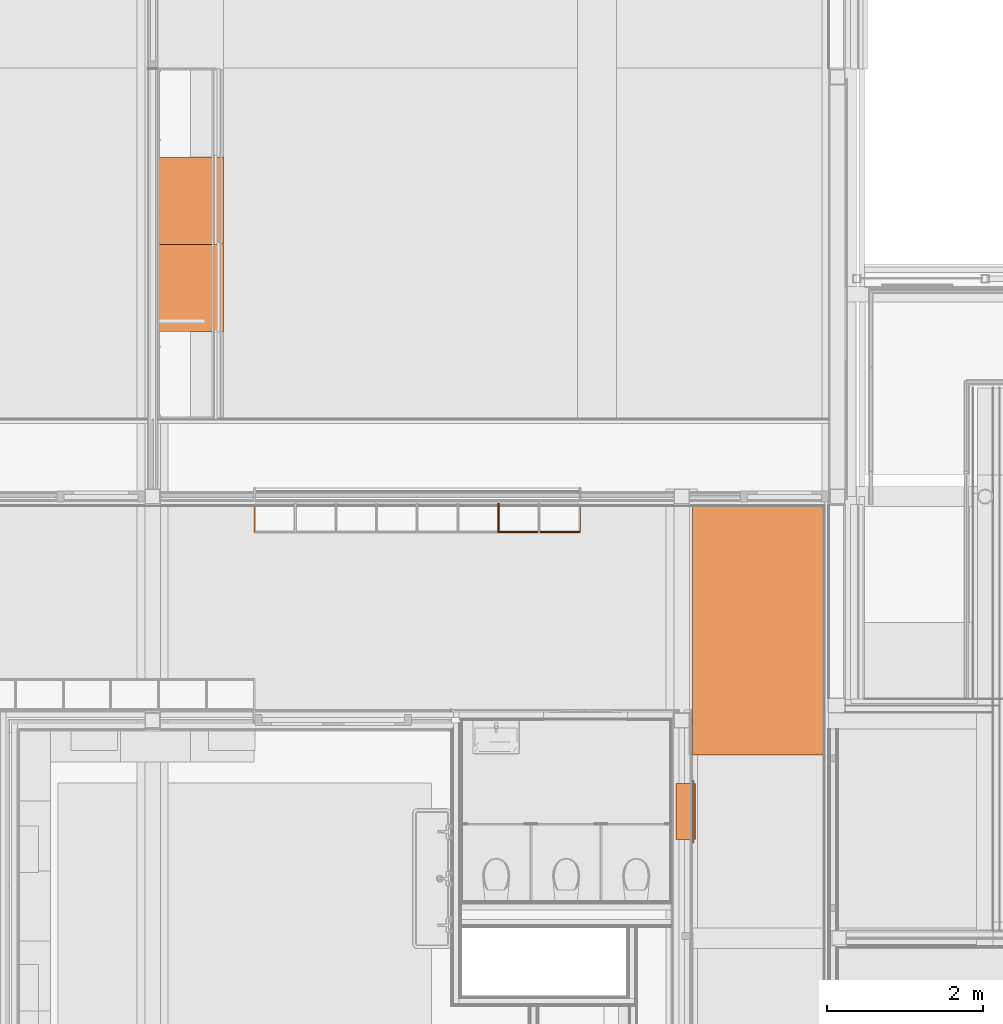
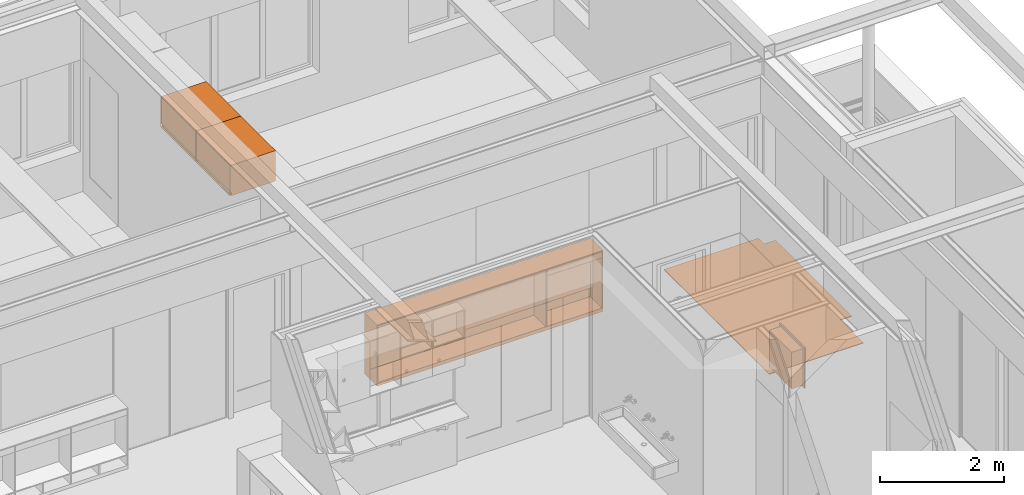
# One storey, part 135 of 137: 7 proxies.
"""IFC2X3 building model written with IfcOpenShell, lengths in millimetres."""

from ifc_helpers import new_model, entity, si_unit, converted_unit, derived_unit, money_unit, direction, frame, origin_with_axes, place, context, subcontext, project, spatial, faceted_brep, material, type_object, element, save


model = new_model("IFC2X3")

# Units and contexts
model_context = context("Model", 3, precision=0.01, world=origin_with_axes(), true_north=direction((0.0, 1.0)))
body_context = subcontext(model_context, "Body", "Model", "MODEL_VIEW")
ifc_project = project(units=[si_unit("LENGTHUNIT", "METRE", prefix="MILLI"), si_unit("AREAUNIT", "SQUARE_METRE"), si_unit("VOLUMEUNIT", "CUBIC_METRE"), converted_unit("PLANEANGLEUNIT", "DEGREE", entity("IfcPlaneAngleMeasure", 0.0174532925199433), si_unit("PLANEANGLEUNIT", "RADIAN"), dimensions=[0, 0, 0, 0, 0, 0, 0]), money_unit("EUR"), converted_unit("TIMEUNIT", "Year", entity("IfcTimeMeasure", 31556926.0), si_unit("TIMEUNIT", "SECOND"), dimensions=[0, 0, 1, 0, 0, 0, 0]), si_unit("MASSUNIT", "GRAM", prefix="KILO"), si_unit("THERMODYNAMICTEMPERATUREUNIT", "DEGREE_CELSIUS"), si_unit("LUMINOUSINTENSITYUNIT", "LUMEN"), si_unit("ENERGYUNIT", "JOULE", prefix="MEGA"), derived_unit("THERMALCONDUCTANCEUNIT", [(si_unit("POWERUNIT", "WATT"), 1), (si_unit("LENGTHUNIT", "METRE"), -1), (si_unit("THERMODYNAMICTEMPERATUREUNIT", "KELVIN"), -1)]), derived_unit("SPECIFICHEATCAPACITYUNIT", [(si_unit("ENERGYUNIT", "JOULE"), 1), (si_unit("MASSUNIT", "GRAM", prefix="KILO"), -1), (si_unit("THERMODYNAMICTEMPERATUREUNIT", "KELVIN"), -1)]), derived_unit("MASSDENSITYUNIT", [(si_unit("MASSUNIT", "GRAM", prefix="KILO"), 1), (si_unit("VOLUMEUNIT", "CUBIC_METRE"), -1)])], contexts=[model_context])

# Site, building, storey
site_placement = place(None, origin_with_axes())
site = spatial("IfcSite", under=ifc_project, at=site_placement, Name="Site", CompositionType="ELEMENT")
building_placement = place(site_placement, origin_with_axes())
building = spatial("IfcBuilding", under=site, at=building_placement, Name="Naam gebouw", CompositionType="ELEMENT")
storey_placement = place(building_placement, frame((0.0, 0.0, 3960.0), z_axis=(0.0, 0.0, 1.0), x_axis=(1.0, 0.0, 0.0)))
storey = spatial("IfcBuildingStorey", under=building, at=storey_placement, Name="1e verdieping", CompositionType="ELEMENT", Elevation=3960.0)

# Proxies
ifc_material_1 = material(Name="Hout AFW")
building_element_proxy_type_1 = type_object("IfcBuildingElementProxyType", Name="Hout AFW 18", PredefinedType="NOTDEFINED")
proxy_1_placement = place(storey_placement, frame((22154.9785735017, 21862.47621406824, 1062.0), z_axis=(0.0, 0.0, 1.0), x_axis=(1.0, 0.0, 0.0)))
element("IfcBuildingElementProxy", 1, at=proxy_1_placement, inside=storey, type_object=building_element_proxy_type_1, material=ifc_material_1, Name="i HOUT_Wand-x", context=body_context, shape_type="Brep", body=[
    faceted_brep([(0.0, 18.00000000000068, 0.0), (1025.020466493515, 18.00000000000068, 0.0), (1025.020466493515, 0.0, 0.0), (0.0, 0.0, 0.0), (0.0, 18.00000000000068, 117.9999999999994), (1025.020466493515, 18.00000000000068, 117.9999999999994), (1025.020466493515, 0.0, 117.9999999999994), (0.0, 0.0, 117.9999999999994)], [[[0, 1, 2, 3]], [[4, 5, 1, 0]], [[2, 1, 5, 6]], [[3, 2, 6, 7]], [[4, 0, 3, 7]], [[7, 6, 5, 4]]]),
])
building_element_proxy_type_2 = type_object("IfcBuildingElementProxyType", Name="Onderkast recht 26", PredefinedType="NOTDEFINED")
proxy_2_placement = place(storey_placement, frame((23199.9990399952, 22262.47621406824, 0.0), z_axis=(0.0, 0.0, 1.0), x_axis=(1.0, 0.0, 0.0)))
element("IfcBuildingElementProxy", 2, at=proxy_2_placement, inside=storey, type_object=building_element_proxy_type_2, Name="_Leeg", context=body_context, shape_type="Brep", body=[
    faceted_brep([(-20.0, -399.9999999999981, 50.0), (-20.0, -399.9999999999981, 70.0), (-4180.00000000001, -399.9999999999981, 70.0), (-4180.00000000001, -399.9999999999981, 50.0), (-20.0, 0.0, 50.0), (-20.0, 0.0, 70.0), (-4180.00000000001, 0.0, 70.0), (-4180.00000000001, 0.0, 50.0)], [[[0, 1, 2, 3]], [[4, 5, 1, 0]], [[1, 5, 6, 2]], [[3, 2, 6, 7]], [[0, 3, 7, 4]], [[7, 6, 5, 4]]]),
    faceted_brep([(-20.0, -399.9999999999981, 1180.0), (-20.0, -399.9999999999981, 1200.0), (-4180.00000000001, -399.9999999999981, 1200.0), (-4180.00000000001, -399.9999999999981, 1180.0), (-20.0, 0.0, 1180.0), (-20.0, 0.0, 1200.0), (-4180.00000000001, 0.0, 1200.0), (-4180.00000000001, 0.0, 1180.0)], [[[0, 1, 2, 3]], [[4, 5, 1, 0]], [[1, 5, 6, 2]], [[3, 2, 6, 7]], [[0, 3, 7, 4]], [[7, 6, 5, 4]]]),
    faceted_brep([(0.0, 0.0, 50.0), (0.0, 0.0, 1200.0), (0.0, -399.9999999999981, 1200.0), (0.0, -399.9999999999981, 50.0), (-20.0, 0.0, 50.0), (-20.0, 0.0, 1200.0), (-20.0, -399.9999999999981, 1200.0), (-20.0, -399.9999999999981, 50.0)], [[[0, 1, 2, 3]], [[4, 5, 1, 0]], [[1, 5, 6, 2]], [[3, 2, 6, 7]], [[0, 3, 7, 4]], [[7, 6, 5, 4]]]),
    faceted_brep([(-4200.00000000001, -399.9999999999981, 50.0), (-4200.00000000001, -399.9999999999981, 1200.0), (-4200.00000000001, 0.0, 1200.0), (-4200.00000000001, 0.0, 50.0), (-4180.00000000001, -399.9999999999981, 50.0), (-4180.00000000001, -399.9999999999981, 1200.0), (-4180.00000000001, 0.0, 1200.0), (-4180.00000000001, 0.0, 50.0)], [[[0, 1, 2, 3]], [[4, 5, 1, 0]], [[1, 5, 6, 2]], [[3, 2, 6, 7]], [[0, 3, 7, 4]], [[7, 6, 5, 4]]]),
    faceted_brep([(-4180.00000000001, -10.0, 70.0), (-4180.00000000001, -10.0, 1180.0), (-19.99999999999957, -10.0, 1180.0), (-19.99999999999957, -10.0, 70.0), (-4180.00000000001, -20.0, 70.0), (-4180.00000000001, -20.0, 1180.0), (-19.99999999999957, -20.0, 1180.0), (-19.99999999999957, -20.0, 70.0)], [[[0, 1, 2, 3]], [[4, 5, 1, 0]], [[1, 5, 6, 2]], [[3, 2, 6, 7]], [[0, 3, 7, 4]], [[7, 6, 5, 4]]]),
    faceted_brep([(0.0, -399.9999999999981, 0.0), (0.0, -399.9999999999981, 50.0), (-4200.00000000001, -399.9999999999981, 50.0), (-4200.00000000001, -399.9999999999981, 0.0), (0.0, 0.0, 0.0), (0.0, 0.0, 50.0), (-4200.00000000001, 0.0, 50.0), (-4200.00000000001, 0.0, 0.0)], [[[0, 1, 2, 3]], [[4, 5, 1, 0]], [[1, 5, 6, 2]], [[3, 2, 6, 7]], [[0, 3, 7, 4]], [[7, 6, 5, 4]]]),
])
proxy_3_placement = place(storey_placement, frame((17762.49942456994, 26687.99970566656, 2600.0), z_axis=(0.0, 0.0, 1.0), x_axis=(0.0, 1.0, 0.0)))
element("IfcBuildingElementProxy", 3, at=proxy_3_placement, inside=storey, type_object=building_element_proxy_type_2, Name="_Leeg", context=body_context, shape_type="Brep", body=[
    faceted_brep([(-1102.000141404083, -1.999999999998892, 17.99999999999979), (-18.00000000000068, -1.999999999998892, 17.99999999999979), (-18.00000000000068, 0.0, 17.99999999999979), (-1102.000141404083, 0.0, 17.99999999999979), (-18.00000000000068, -1.999999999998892, 0.0), (-1102.000141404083, -1.999999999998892, 0.0), (-18.00000000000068, 0.0, 0.0), (-1102.000141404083, 0.0, 0.0)], [[[0, 1, 2, 3]], [[4, 1, 0, 5]], [[1, 4, 6, 2]], [[6, 7, 3, 2]], [[5, 0, 3, 7]], [[4, 5, 7, 6]]]),
    faceted_brep([(-1102.000141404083, -18.00000000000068, 69.99999999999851), (-18.00000000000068, -18.00000000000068, 69.99999999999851), (-18.00000000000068, -18.00000000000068, 581.9999999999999), (-1102.000141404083, -18.00000000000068, 581.9999999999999), (-18.00000000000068, -9.000000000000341, 69.99999999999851), (-1102.000141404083, -9.000000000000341, 69.99999999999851), (-18.00000000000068, -9.000000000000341, 581.9999999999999), (-1102.000141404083, -9.000000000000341, 581.9999999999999)], [[[0, 1, 2, 3]], [[4, 1, 0, 5]], [[1, 4, 6, 2]], [[6, 7, 3, 2]], [[5, 0, 3, 7]], [[4, 5, 7, 6]]]),
    faceted_brep([(-1102.000141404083, -826.9999999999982, 581.9999999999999), (-18.00000000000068, -826.9999999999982, 581.9999999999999), (-18.00000000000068, -826.9999999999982, 599.9999999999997), (-1102.000141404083, -826.9999999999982, 599.9999999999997), (-18.00000000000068, 0.0, 581.9999999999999), (-1102.000141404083, 0.0, 581.9999999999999), (-18.00000000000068, 0.0, 599.9999999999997), (-1102.000141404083, 0.0, 599.9999999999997)], [[[0, 1, 2, 3]], [[4, 1, 0, 5]], [[1, 4, 6, 2]], [[3, 2, 6, 7]], [[5, 0, 3, 7]], [[4, 5, 7, 6]]]),
    faceted_brep([(0.0, -1.999999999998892, 69.99999999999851), (0.0, -1.999999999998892, 0.0), (0.0, 0.0, 0.0), (0.0, 0.0, 599.9999999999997), (0.0, -826.9999999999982, 599.9999999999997), (0.0, -826.9999999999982, 0.0), (0.0, -21.99999999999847, 0.0), (0.0, -21.99999999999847, 69.99999999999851), (-18.00000000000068, -1.999999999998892, 69.99999999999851), (-18.00000000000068, -1.999999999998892, 0.0), (-18.00000000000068, 0.0, 0.0), (-18.00000000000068, 0.0, 599.9999999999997), (-18.00000000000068, -826.9999999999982, 599.9999999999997), (-18.00000000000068, -826.9999999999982, 0.0), (-18.00000000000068, -21.99999999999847, 0.0), (-18.00000000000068, -21.99999999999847, 69.99999999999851)], [[[0, 1, 2, 3, 4, 5, 6, 7]], [[1, 0, 8, 9]], [[1, 9, 10, 2]], [[2, 10, 11, 3]], [[4, 3, 11, 12]], [[13, 5, 4, 12]], [[14, 6, 5, 13]], [[7, 6, 14, 15]], [[0, 7, 15, 8]], [[15, 14, 13, 12, 11, 10, 9, 8]]]),
    faceted_brep([(-1102.000141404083, -1.999999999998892, 69.99999999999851), (-1102.000141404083, -1.999999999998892, 0.0), (-1102.000141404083, 0.0, 0.0), (-1102.000141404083, 0.0, 599.9999999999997), (-1102.000141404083, -826.9999999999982, 599.9999999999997), (-1102.000141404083, -826.9999999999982, 0.0), (-1102.000141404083, -21.99999999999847, 0.0), (-1102.000141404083, -21.99999999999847, 69.99999999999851), (-1120.000141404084, -1.999999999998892, 69.99999999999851), (-1120.000141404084, -1.999999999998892, 0.0), (-1120.000141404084, 0.0, 0.0), (-1120.000141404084, 0.0, 599.9999999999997), (-1120.000141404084, -826.9999999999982, 599.9999999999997), (-1120.000141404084, -826.9999999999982, 0.0), (-1120.000141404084, -21.99999999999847, 0.0), (-1120.000141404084, -21.99999999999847, 69.99999999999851)], [[[0, 1, 2, 3, 4, 5, 6, 7]], [[1, 0, 8, 9]], [[1, 9, 10, 2]], [[2, 10, 11, 3]], [[11, 12, 4, 3]], [[13, 5, 4, 12]], [[14, 6, 5, 13]], [[7, 6, 14, 15]], [[0, 7, 15, 8]], [[15, 14, 13, 12, 11, 10, 9, 8]]]),
    faceted_brep([(-18.00000000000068, -21.99999999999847, 0.0), (-18.00000000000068, -21.99999999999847, 17.99999999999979), (-18.00000000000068, -826.9999999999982, 17.99999999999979), (-18.00000000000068, -826.9999999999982, 0.0), (-1102.000141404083, -21.99999999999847, 17.99999999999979), (-1102.000141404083, -21.99999999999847, 0.0), (-1102.000141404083, -826.9999999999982, 17.99999999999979), (-1102.000141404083, -826.9999999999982, 0.0)], [[[0, 1, 2, 3]], [[4, 1, 0, 5]], [[1, 4, 6, 2]], [[7, 3, 2, 6]], [[5, 0, 3, 7]], [[4, 5, 7, 6]]]),
    faceted_brep([(-1.000000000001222, -826.9999999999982, 1.000000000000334), (-1.000000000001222, -844.9999999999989, 1.000000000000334), (-1119.000141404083, -844.9999999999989, 1.000000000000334), (-1119.000141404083, -826.9999999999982, 1.000000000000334), (-1.000000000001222, -826.9999999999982, 599.0000000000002), (-1.000000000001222, -844.9999999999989, 599.0000000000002), (-1119.000141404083, -844.9999999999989, 599.0000000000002), (-1119.000141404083, -826.9999999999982, 599.0000000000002)], [[[0, 1, 2, 3]], [[4, 5, 1, 0]], [[1, 5, 6, 2]], [[3, 2, 6, 7]], [[0, 3, 7, 4]], [[7, 6, 5, 4]]]),
])
proxy_4_placement = place(storey_placement, frame((17762.49942456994, 25567.99956426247, 2600.0), z_axis=(0.0, 0.0, 1.0), x_axis=(0.0, 1.0, 0.0)))
element("IfcBuildingElementProxy", 4, at=proxy_4_placement, inside=storey, type_object=building_element_proxy_type_2, Name="_Leeg", context=body_context, shape_type="Brep", body=[
    faceted_brep([(-1102.000141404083, -1.999999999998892, 17.99999999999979), (-18.00000000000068, -1.999999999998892, 17.99999999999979), (-18.00000000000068, 0.0, 17.99999999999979), (-1102.000141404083, 0.0, 17.99999999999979), (-18.00000000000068, -1.999999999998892, 0.0), (-1102.000141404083, -1.999999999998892, 0.0), (-18.00000000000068, 0.0, 0.0), (-1102.000141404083, 0.0, 0.0)], [[[0, 1, 2, 3]], [[4, 1, 0, 5]], [[1, 4, 6, 2]], [[6, 7, 3, 2]], [[5, 0, 3, 7]], [[4, 5, 7, 6]]]),
    faceted_brep([(-1102.000141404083, -18.00000000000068, 69.99999999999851), (-18.00000000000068, -18.00000000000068, 69.99999999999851), (-18.00000000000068, -18.00000000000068, 581.9999999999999), (-1102.000141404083, -18.00000000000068, 581.9999999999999), (-18.00000000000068, -9.000000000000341, 69.99999999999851), (-1102.000141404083, -9.000000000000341, 69.99999999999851), (-18.00000000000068, -9.000000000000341, 581.9999999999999), (-1102.000141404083, -9.000000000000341, 581.9999999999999)], [[[0, 1, 2, 3]], [[4, 1, 0, 5]], [[1, 4, 6, 2]], [[6, 7, 3, 2]], [[5, 0, 3, 7]], [[4, 5, 7, 6]]]),
    faceted_brep([(-1102.000141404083, -826.9999999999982, 581.9999999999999), (-18.00000000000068, -826.9999999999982, 581.9999999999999), (-18.00000000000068, -826.9999999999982, 599.9999999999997), (-1102.000141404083, -826.9999999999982, 599.9999999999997), (-18.00000000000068, 0.0, 581.9999999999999), (-1102.000141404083, 0.0, 581.9999999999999), (-18.00000000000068, 0.0, 599.9999999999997), (-1102.000141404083, 0.0, 599.9999999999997)], [[[0, 1, 2, 3]], [[4, 1, 0, 5]], [[1, 4, 6, 2]], [[3, 2, 6, 7]], [[5, 0, 3, 7]], [[4, 5, 7, 6]]]),
    faceted_brep([(0.0, -1.999999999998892, 69.99999999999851), (0.0, -1.999999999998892, 0.0), (0.0, 0.0, 0.0), (0.0, 0.0, 599.9999999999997), (0.0, -826.9999999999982, 599.9999999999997), (0.0, -826.9999999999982, 0.0), (0.0, -21.99999999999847, 0.0), (0.0, -21.99999999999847, 69.99999999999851), (-18.00000000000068, -1.999999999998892, 69.99999999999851), (-18.00000000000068, -1.999999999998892, 0.0), (-18.00000000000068, 0.0, 0.0), (-18.00000000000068, 0.0, 599.9999999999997), (-18.00000000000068, -826.9999999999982, 599.9999999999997), (-18.00000000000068, -826.9999999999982, 0.0), (-18.00000000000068, -21.99999999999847, 0.0), (-18.00000000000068, -21.99999999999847, 69.99999999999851)], [[[0, 1, 2, 3, 4, 5, 6, 7]], [[1, 0, 8, 9]], [[1, 9, 10, 2]], [[2, 10, 11, 3]], [[4, 3, 11, 12]], [[13, 5, 4, 12]], [[14, 6, 5, 13]], [[7, 6, 14, 15]], [[0, 7, 15, 8]], [[15, 14, 13, 12, 11, 10, 9, 8]]]),
    faceted_brep([(-1102.000141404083, -1.999999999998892, 69.99999999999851), (-1102.000141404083, -1.999999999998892, 0.0), (-1102.000141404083, 0.0, 0.0), (-1102.000141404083, 0.0, 599.9999999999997), (-1102.000141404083, -826.9999999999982, 599.9999999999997), (-1102.000141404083, -826.9999999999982, 0.0), (-1102.000141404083, -21.99999999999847, 0.0), (-1102.000141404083, -21.99999999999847, 69.99999999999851), (-1120.000141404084, -1.999999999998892, 69.99999999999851), (-1120.000141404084, -1.999999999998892, 0.0), (-1120.000141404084, 0.0, 0.0), (-1120.000141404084, 0.0, 599.9999999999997), (-1120.000141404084, -826.9999999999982, 599.9999999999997), (-1120.000141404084, -826.9999999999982, 0.0), (-1120.000141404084, -21.99999999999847, 0.0), (-1120.000141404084, -21.99999999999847, 69.99999999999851)], [[[0, 1, 2, 3, 4, 5, 6, 7]], [[1, 0, 8, 9]], [[1, 9, 10, 2]], [[2, 10, 11, 3]], [[11, 12, 4, 3]], [[13, 5, 4, 12]], [[14, 6, 5, 13]], [[7, 6, 14, 15]], [[0, 7, 15, 8]], [[15, 14, 13, 12, 11, 10, 9, 8]]]),
    faceted_brep([(-18.00000000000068, -21.99999999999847, 0.0), (-18.00000000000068, -21.99999999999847, 17.99999999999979), (-18.00000000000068, -826.9999999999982, 17.99999999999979), (-18.00000000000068, -826.9999999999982, 0.0), (-1102.000141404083, -21.99999999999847, 17.99999999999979), (-1102.000141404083, -21.99999999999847, 0.0), (-1102.000141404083, -826.9999999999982, 17.99999999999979), (-1102.000141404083, -826.9999999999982, 0.0)], [[[0, 1, 2, 3]], [[4, 1, 0, 5]], [[1, 4, 6, 2]], [[7, 3, 2, 6]], [[5, 0, 3, 7]], [[4, 5, 7, 6]]]),
    faceted_brep([(-1.000000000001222, -826.9999999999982, 1.000000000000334), (-1.000000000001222, -844.9999999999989, 1.000000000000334), (-1119.000141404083, -844.9999999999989, 1.000000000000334), (-1119.000141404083, -826.9999999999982, 1.000000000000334), (-1.000000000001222, -826.9999999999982, 599.0000000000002), (-1.000000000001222, -844.9999999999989, 599.0000000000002), (-1119.000141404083, -844.9999999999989, 599.0000000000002), (-1119.000141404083, -826.9999999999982, 599.0000000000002)], [[[0, 1, 2, 3]], [[4, 5, 1, 0]], [[1, 5, 6, 2]], [[3, 2, 6, 7]], [[0, 3, 7, 4]], [[7, 6, 5, 4]]]),
])
ifc_material_2 = material(Name="Vloerafwerking - schoonloopzone 3")
building_element_proxy_type_3 = type_object("IfcBuildingElementProxyType", Name="Vloerafwerking - schoonloopzone 3 15", PredefinedType="NOTDEFINED")
proxy_5_placement = place(storey_placement, frame((24634.99903999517, 19584.9998112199, -9.999999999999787), z_axis=(0.0, 0.0, 1.0), x_axis=(1.0, 0.0, 0.0)))
element("IfcBuildingElementProxy", 5, at=proxy_5_placement, inside=storey, type_object=building_element_proxy_type_3, material=ifc_material_2, Name="_43 marmoleum", context=body_context, shape_type="Brep", body=[
    faceted_brep([(0.0, -581.5020295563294, 14.99999999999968), (0.0, -581.5020295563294, 0.0), (1751.000959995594, -581.5020295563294, 0.0), (1751.000959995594, -581.5020295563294, 14.99999999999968), (0.0, 2802.476402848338, 14.99999999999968), (0.0, 2802.476402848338, 0.0), (1751.000961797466, 2802.476402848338, 0.0), (1751.000962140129, 2616.000581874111, 0.0), (1965.000962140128, 2616.000581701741, 0.0), (1965.000960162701, 161.0005817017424, 0.0), (1751.000960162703, 161.0005818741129, 0.0), (1751.000960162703, 161.0005818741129, 14.99999999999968), (1965.000960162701, 161.0005817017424, 14.99999999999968), (1965.000962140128, 2616.000581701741, 14.99999999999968), (1751.000962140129, 2616.000581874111, 14.99999999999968), (1751.000961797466, 2802.476402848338, 14.99999999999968)], [[[0, 1, 2, 3]], [[4, 5, 1, 0]], [[1, 5, 6, 7, 8, 9, 10, 2]], [[3, 2, 10, 11]], [[4, 0, 3, 11, 12, 13, 14, 15]], [[15, 6, 5, 4]], [[14, 7, 6, 15]], [[13, 8, 7, 14]], [[12, 9, 8, 13]], [[11, 10, 9, 12]]]),
])
building_element_proxy_type_4 = type_object("IfcBuildingElementProxyType", Name="Hout AFW 20", PredefinedType="NOTDEFINED")
proxy_6_placement = place(storey_placement, frame((22134.9785735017, 22242.62391659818, 70.00000000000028), z_axis=(0.0, 0.0, 1.0), x_axis=(0.0, -1.0, 0.0)))
element("IfcBuildingElementProxy", 6, at=proxy_6_placement, inside=storey, type_object=building_element_proxy_type_4, material=ifc_material_1, Name="i HOUT_Wand-x", context=body_context, shape_type="Brep", body=[
    faceted_brep([(0.0, 19.99999999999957, 0.0), (380.006513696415, 19.99999999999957, 0.0), (380.006513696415, 0.0, 0.0), (0.0, 0.0, 0.0), (0.0, 19.99999999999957, 1110.0), (380.006513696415, 19.99999999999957, 1110.0), (380.006513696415, 0.0, 1110.0), (0.0, 0.0, 1110.0)], [[[0, 1, 2, 3]], [[4, 5, 1, 0]], [[2, 1, 5, 6]], [[3, 2, 6, 7]], [[4, 0, 3, 7]], [[7, 6, 5, 4]]]),
])
building_element_proxy_type_5 = type_object("IfcBuildingElementProxyType", Name="Brandslang haspelkast 26", PredefinedType="NOTDEFINED")
proxy_7_placement = place(storey_placement, frame((24674.99903999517, 18675.00039292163, 400.0000000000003), z_axis=(0.0, 0.0, 1.0), x_axis=(0.0, 1.0, 0.0)))
element("IfcBuildingElementProxy", 7, at=proxy_7_placement, inside=storey, type_object=building_element_proxy_type_5, Name="_object-x", context=body_context, shape_type="Brep", body=[
    faceted_brep([(0.0, 40.00000000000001, 0.0), (0.0, 20.00000000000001, 0.0), (-800.0, 20.00000000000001, 0.0), (-800.0, 40.00000000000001, 0.0), (0.0, 40.00000000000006, 800.0), (0.0, 20.00000000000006, 800.0), (-800.0, 20.00000000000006, 800.0), (-60.0, 20.00000000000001, 60.00000000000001), (-740.0, 20.00000000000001, 60.00000000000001), (-740.0, 20.00000000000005, 740.0), (-60.0, 20.00000000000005, 740.0), (-800.0, 40.00000000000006, 800.0), (-60.0, 40.00000000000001, 60.00000000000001), (-60.0, 40.00000000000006, 740.0), (-740.0, 40.00000000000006, 740.0), (-740.0, 40.00000000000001, 60.00000000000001)], [[[0, 1, 2, 3]], [[4, 5, 1, 0]], [[1, 5, 6, 2], [7, 8, 9, 10]], [[3, 2, 6, 11]], [[0, 3, 11, 4], [12, 13, 14, 15]], [[11, 6, 5, 4]], [[15, 8, 7, 12]], [[14, 9, 8, 15]], [[13, 10, 9, 14]], [[12, 7, 10, 13]]]),
    faceted_brep([(-39.99999999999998, 20.00000000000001, 40.00000000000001), (-39.99999999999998, 0.0, 40.00000000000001), (-760.0, 0.0, 40.00000000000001), (-760.0, 20.00000000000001, 40.00000000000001), (-39.99999999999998, 20.00000000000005, 760.0), (-39.99999999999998, 0.0, 760.0), (-760.0, 0.0, 760.0), (-80.00000000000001, 0.0, 80.0), (-720.0, 0.0, 80.0), (-720.0, 0.0, 720.0000000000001), (-80.00000000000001, 0.0, 720.0000000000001), (-760.0, 20.00000000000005, 760.0), (-80.00000000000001, 20.00000000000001, 80.0), (-80.00000000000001, 20.00000000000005, 720.0000000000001), (-720.0, 20.00000000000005, 720.0000000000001), (-720.0, 20.00000000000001, 80.0)], [[[0, 1, 2, 3]], [[4, 5, 1, 0]], [[1, 5, 6, 2], [7, 8, 9, 10]], [[3, 2, 6, 11]], [[0, 3, 11, 4], [12, 13, 14, 15]], [[11, 6, 5, 4]], [[15, 8, 7, 12]], [[14, 9, 8, 15]], [[13, 10, 9, 14]], [[12, 7, 10, 13]]]),
    faceted_brep([(-39.99999999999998, 230.0, 39.99999999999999), (-39.99999999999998, 39.99999999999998, 40.00000000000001), (-760.0, 39.99999999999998, 40.00000000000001), (-760.0, 230.0, 39.99999999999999), (-39.99999999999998, 230.0, 760.0), (-39.99999999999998, 40.00000000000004, 760.0), (-760.0, 40.00000000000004, 760.0), (-60.0, 39.99999999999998, 60.00000000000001), (-740.0, 39.99999999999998, 60.00000000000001), (-740.0, 40.00000000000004, 740.0), (-60.0, 40.00000000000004, 740.0), (-760.0, 230.0, 760.0), (-60.0, 230.0, 59.99999999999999), (-60.0, 230.0, 740.0), (-740.0, 230.0, 740.0), (-740.0, 230.0, 59.99999999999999)], [[[0, 1, 2, 3]], [[4, 5, 1, 0]], [[1, 5, 6, 2], [7, 8, 9, 10]], [[3, 2, 6, 11]], [[0, 3, 11, 4], [12, 13, 14, 15]], [[11, 6, 5, 4]], [[15, 8, 7, 12]], [[14, 9, 8, 15]], [[13, 10, 9, 14]], [[12, 7, 10, 13]]]),
    faceted_brep([(-39.99999999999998, 250.0, 39.99999999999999), (-39.99999999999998, 230.0, 39.99999999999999), (-760.0, 230.0, 39.99999999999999), (-760.0, 250.0, 39.99999999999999), (-39.99999999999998, 250.0000000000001, 760.0), (-39.99999999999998, 230.0, 760.0), (-760.0, 230.0, 760.0), (-760.0, 250.0000000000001, 760.0)], [[[0, 1, 2, 3]], [[4, 5, 1, 0]], [[1, 5, 6, 2]], [[3, 2, 6, 7]], [[0, 3, 7, 4]], [[7, 6, 5, 4]]]),
    faceted_brep([(-80.00000000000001, 15.00000000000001, 80.0), (-80.00000000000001, 5.000000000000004, 80.0), (-720.0, 5.000000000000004, 80.0), (-720.0, 15.00000000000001, 80.0), (-80.00000000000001, 15.00000000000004, 720.0000000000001), (-80.00000000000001, 5.000000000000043, 720.0000000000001), (-720.0, 5.000000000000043, 720.0000000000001), (-720.0, 15.00000000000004, 720.0000000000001)], [[[0, 1, 2, 3]], [[4, 5, 1, 0]], [[1, 5, 6, 2]], [[3, 2, 6, 7]], [[0, 3, 7, 4]], [[7, 6, 5, 4]]]),
    faceted_brep([(-749.6592582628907, 0.0, 397.4118095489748), (-750.0, 0.0, 400.0), (-749.6592582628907, 0.0, 402.5881904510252), (-748.6602540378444, 0.0, 405.0), (-747.0710678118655, 0.0, 407.0710678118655), (-745.0, 0.0, 408.6602540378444), (-742.5881904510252, 0.0, 409.6592582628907), (-740.0, 0.0, 410.0000000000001), (-737.4118095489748, 0.0, 409.6592582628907), (-735.0, 0.0, 408.6602540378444), (-732.9289321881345, 0.0, 407.0710678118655), (-731.3397459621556, 0.0, 405.0), (-730.3407417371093, 0.0, 402.5881904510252), (-730.0, 0.0, 400.0), (-730.3407417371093, 0.0, 397.4118095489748), (-731.3397459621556, 0.0, 395.0), (-732.9289321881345, 0.0, 392.9289321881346), (-735.0, 0.0, 391.3397459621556), (-737.4118095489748, 0.0, 390.3407417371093), (-740.0, 0.0, 390.0), (-742.5881904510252, 0.0, 390.3407417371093), (-745.0, 0.0, 391.3397459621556), (-747.0710678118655, 0.0, 392.9289321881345), (-748.6602540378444, 0.0, 395.0), (-749.6592582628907, -1.999999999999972, 397.4118095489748), (-750.0, -1.999999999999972, 400.0), (-749.6592582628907, -1.999999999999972, 402.5881904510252), (-748.6602540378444, -1.999999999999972, 405.0), (-747.0710678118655, -1.999999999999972, 407.0710678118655), (-745.0, -1.999999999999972, 408.6602540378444), (-742.5881904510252, -1.999999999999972, 409.6592582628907), (-740.0, -1.999999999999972, 410.0000000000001), (-737.4118095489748, -1.999999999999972, 409.6592582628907), (-735.0, -1.999999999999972, 408.6602540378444), (-732.9289321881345, -1.999999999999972, 407.0710678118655), (-731.3397459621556, -1.999999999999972, 405.0), (-730.3407417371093, -1.999999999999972, 402.5881904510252), (-730.0, -1.999999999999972, 400.0), (-730.3407417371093, -1.999999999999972, 397.4118095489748), (-731.3397459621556, -1.999999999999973, 395.0), (-732.9289321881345, -1.999999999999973, 392.9289321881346), (-735.0, -1.999999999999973, 391.3397459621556), (-737.4118095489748, -1.999999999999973, 390.3407417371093), (-740.0, -1.999999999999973, 390.0), (-742.5881904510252, -1.999999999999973, 390.3407417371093), (-745.0, -1.999999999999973, 391.3397459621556), (-747.0710678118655, -1.999999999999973, 392.9289321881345), (-748.6602540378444, -1.999999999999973, 395.0)], [[[0, 1, 2, 3, 4, 5, 6, 7, 8, 9, 10, 11, 12, 13, 14, 15, 16, 17, 18, 19, 20, 21, 22, 23]], [[0, 24, 25, 1]], [[1, 25, 26, 2]], [[2, 26, 27, 3]], [[3, 27, 28, 4]], [[4, 28, 29, 5]], [[5, 29, 30, 6]], [[6, 30, 31, 7]], [[7, 31, 32, 8]], [[8, 32, 33, 9]], [[9, 33, 34, 10]], [[10, 34, 35, 11]], [[11, 35, 36, 12]], [[12, 36, 37, 13]], [[13, 37, 38, 14]], [[14, 38, 39, 15]], [[15, 39, 40, 16]], [[16, 40, 41, 17]], [[17, 41, 42, 18]], [[18, 42, 43, 19]], [[19, 43, 44, 20]], [[20, 44, 45, 21]], [[21, 45, 46, 22]], [[22, 46, 47, 23]], [[23, 47, 24, 0]], [[24, 47, 46, 45, 44, 43, 42, 41, 40, 39, 38, 37, 36, 35, 34, 33, 32, 31, 30, 29, 28, 27, 26, 25]]]),
    faceted_brep([(-39.89777747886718, 16.22354286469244, 80.0), (-39.99999999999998, 17.0, 80.0), (-39.89777747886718, 17.77645713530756, 80.0), (-39.59807621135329, 18.5, 80.0), (-39.12132034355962, 19.12132034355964, 80.0), (-38.49999999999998, 19.59807621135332, 80.0), (-37.77645713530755, 19.89777747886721, 80.0), (-36.99999999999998, 20.0, 80.0), (-36.22354286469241, 19.89777747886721, 80.0), (-35.49999999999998, 19.59807621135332, 80.0), (-34.87867965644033, 19.12132034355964, 80.0), (-34.40192378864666, 18.5, 80.0), (-34.10222252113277, 17.77645713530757, 80.0), (-33.99999999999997, 17.0, 80.0), (-34.10222252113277, 16.22354286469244, 80.0), (-34.40192378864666, 15.5, 80.0), (-34.87867965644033, 14.87867965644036, 80.0), (-35.49999999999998, 14.40192378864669, 80.0), (-36.22354286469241, 14.1022225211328, 80.0), (-36.99999999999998, 14.0, 80.0), (-37.77645713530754, 14.10222252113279, 80.0), (-38.49999999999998, 14.40192378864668, 80.0), (-39.12132034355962, 14.87867965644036, 80.0), (-39.59807621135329, 15.5, 80.0), (-39.89777747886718, 16.22354286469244, 120.0), (-39.99999999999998, 17.0, 120.0), (-39.89777747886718, 17.77645713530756, 120.0), (-39.59807621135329, 18.5, 120.0), (-39.12132034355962, 19.12132034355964, 120.0), (-38.49999999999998, 19.59807621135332, 120.0), (-37.77645713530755, 19.89777747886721, 120.0), (-36.99999999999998, 20.0, 120.0), (-36.22354286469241, 19.89777747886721, 120.0), (-35.49999999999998, 19.59807621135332, 120.0), (-34.87867965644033, 19.12132034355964, 120.0), (-34.40192378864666, 18.5, 120.0), (-34.10222252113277, 17.77645713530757, 120.0), (-33.99999999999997, 17.0, 120.0), (-34.10222252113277, 16.22354286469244, 120.0), (-34.40192378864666, 15.5, 120.0), (-34.87867965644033, 14.87867965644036, 120.0), (-35.49999999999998, 14.40192378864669, 120.0), (-36.22354286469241, 14.1022225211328, 120.0), (-36.99999999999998, 14.0, 120.0), (-37.77645713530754, 14.10222252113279, 120.0), (-38.49999999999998, 14.40192378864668, 120.0), (-39.12132034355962, 14.87867965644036, 120.0), (-39.59807621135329, 15.5, 120.0)], [[[0, 1, 2, 3, 4, 5, 6, 7, 8, 9, 10, 11, 12, 13, 14, 15, 16, 17, 18, 19, 20, 21, 22, 23]], [[0, 24, 25, 1]], [[1, 25, 26, 2]], [[2, 26, 27, 3]], [[3, 27, 28, 4]], [[4, 28, 29, 5]], [[5, 29, 30, 6]], [[6, 30, 31, 7]], [[7, 31, 32, 8]], [[8, 32, 33, 9]], [[9, 33, 34, 10]], [[10, 34, 35, 11]], [[11, 35, 36, 12]], [[12, 36, 37, 13]], [[13, 37, 38, 14]], [[14, 38, 39, 15]], [[15, 39, 40, 16]], [[16, 40, 41, 17]], [[17, 41, 42, 18]], [[18, 42, 43, 19]], [[19, 43, 44, 20]], [[20, 44, 45, 21]], [[21, 45, 46, 22]], [[22, 46, 47, 23]], [[23, 47, 24, 0]], [[24, 47, 46, 45, 44, 43, 42, 41, 40, 39, 38, 37, 36, 35, 34, 33, 32, 31, 30, 29, 28, 27, 26, 25]]]),
    faceted_brep([(-39.89777747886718, 16.22354286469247, 680.0), (-39.99999999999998, 17.00000000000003, 680.0), (-39.89777747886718, 17.77645713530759, 680.0), (-39.59807621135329, 18.50000000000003, 680.0), (-39.12132034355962, 19.12132034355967, 680.0), (-38.49999999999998, 19.59807621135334, 680.0), (-37.77645713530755, 19.89777747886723, 680.0), (-36.99999999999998, 20.00000000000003, 680.0), (-36.22354286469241, 19.89777747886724, 680.0), (-35.49999999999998, 19.59807621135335, 680.0), (-34.87867965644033, 19.12132034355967, 680.0), (-34.40192378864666, 18.50000000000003, 680.0), (-34.10222252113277, 17.7764571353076, 680.0), (-33.99999999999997, 17.00000000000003, 680.0), (-34.10222252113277, 16.22354286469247, 680.0), (-34.40192378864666, 15.50000000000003, 680.0), (-34.87867965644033, 14.87867965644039, 680.0), (-35.49999999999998, 14.40192378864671, 680.0), (-36.22354286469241, 14.10222252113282, 680.0), (-36.99999999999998, 14.00000000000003, 680.0), (-37.77645713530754, 14.10222252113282, 680.0), (-38.49999999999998, 14.40192378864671, 680.0), (-39.12132034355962, 14.87867965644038, 680.0), (-39.59807621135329, 15.50000000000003, 680.0), (-39.89777747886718, 16.22354286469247, 720.0000000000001), (-39.99999999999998, 17.00000000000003, 720.0000000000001), (-39.89777747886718, 17.77645713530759, 720.0000000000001), (-39.59807621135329, 18.50000000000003, 720.0000000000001), (-39.12132034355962, 19.12132034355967, 720.0000000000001), (-38.49999999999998, 19.59807621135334, 720.0000000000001), (-37.77645713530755, 19.89777747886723, 720.0000000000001), (-36.99999999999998, 20.00000000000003, 720.0000000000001), (-36.22354286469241, 19.89777747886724, 720.0000000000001), (-35.49999999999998, 19.59807621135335, 720.0000000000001), (-34.87867965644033, 19.12132034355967, 720.0000000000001), (-34.40192378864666, 18.50000000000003, 720.0000000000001), (-34.10222252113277, 17.7764571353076, 720.0000000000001), (-33.99999999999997, 17.00000000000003, 720.0000000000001), (-34.10222252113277, 16.22354286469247, 720.0000000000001), (-34.40192378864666, 15.50000000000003, 720.0000000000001), (-34.87867965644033, 14.87867965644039, 720.0000000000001), (-35.49999999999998, 14.40192378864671, 720.0000000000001), (-36.22354286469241, 14.10222252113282, 720.0000000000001), (-36.99999999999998, 14.00000000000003, 720.0000000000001), (-37.77645713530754, 14.10222252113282, 720.0000000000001), (-38.49999999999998, 14.40192378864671, 720.0000000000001), (-39.12132034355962, 14.87867965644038, 720.0000000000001), (-39.59807621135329, 15.50000000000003, 720.0000000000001)], [[[0, 1, 2, 3, 4, 5, 6, 7, 8, 9, 10, 11, 12, 13, 14, 15, 16, 17, 18, 19, 20, 21, 22, 23]], [[0, 24, 25, 1]], [[1, 25, 26, 2]], [[2, 26, 27, 3]], [[3, 27, 28, 4]], [[4, 28, 29, 5]], [[5, 29, 30, 6]], [[6, 30, 31, 7]], [[7, 31, 32, 8]], [[8, 32, 33, 9]], [[9, 33, 34, 10]], [[10, 34, 35, 11]], [[11, 35, 36, 12]], [[12, 36, 37, 13]], [[13, 37, 38, 14]], [[14, 38, 39, 15]], [[15, 39, 40, 16]], [[16, 40, 41, 17]], [[17, 41, 42, 18]], [[18, 42, 43, 19]], [[19, 43, 44, 20]], [[20, 44, 45, 21]], [[21, 45, 46, 22]], [[22, 46, 47, 23]], [[23, 47, 24, 0]], [[24, 47, 46, 45, 44, 43, 42, 41, 40, 39, 38, 37, 36, 35, 34, 33, 32, 31, 30, 29, 28, 27, 26, 25]]]),
])

save(model, "model.ifc")
